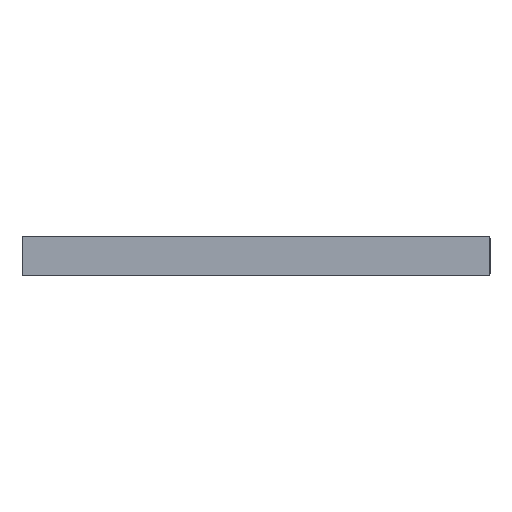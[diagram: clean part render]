
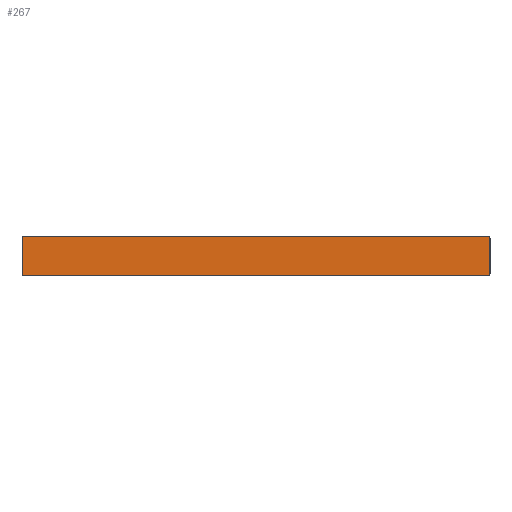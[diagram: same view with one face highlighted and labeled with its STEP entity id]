
A CAD part, left-side view. The second image highlights one B-rep face of the part: STEP entity #267.
In plain terms, the highlighted planar face has unit normal (-1, 0, 0).
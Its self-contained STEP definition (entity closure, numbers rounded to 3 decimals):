
#7 = EDGE_LOOP ( 'NONE', ( #223, #197, #265, #227, #308, #271, #194, #233 ) ) ;
#9 = CARTESIAN_POINT ( 'NONE',  ( 0., 0.25, 0. ) ) ;
#11 = EDGE_CURVE ( 'NONE', #314, #257, #220, .T. ) ;
#16 = CARTESIAN_POINT ( 'NONE',  ( 0., 0.25, 5. ) ) ;
#18 = DIRECTION ( 'NONE',  ( 1., 0., 0. ) ) ;
#21 = CARTESIAN_POINT ( 'NONE',  ( 0., 59.75, 0.25 ) ) ;
#33 = DIRECTION ( 'NONE',  ( 1., 0., 0. ) ) ;
#39 = DIRECTION ( 'NONE',  ( 0., 0., 1. ) ) ;
#41 = CARTESIAN_POINT ( 'NONE',  ( 0., 0., 0. ) ) ;
#46 = DIRECTION ( 'NONE',  ( 0., 0., 1. ) ) ;
#50 = CARTESIAN_POINT ( 'NONE',  ( 0., 0., 0. ) ) ;
#55 = CARTESIAN_POINT ( 'NONE',  ( 0., 0., 0.25 ) ) ;
#57 = PLANE ( 'NONE',  #90 ) ;
#63 = CARTESIAN_POINT ( 'NONE',  ( 0., 59.75, 5. ) ) ;
#70 = EDGE_CURVE ( 'NONE', #230, #320, #247, .T. ) ;
#72 = DIRECTION ( 'NONE',  ( 0., 0., -1. ) ) ;
#73 = DIRECTION ( 'NONE',  ( 0., 0., 1. ) ) ;
#75 = DIRECTION ( 'NONE',  ( 0., 1., 0. ) ) ;
#80 = AXIS2_PLACEMENT_3D ( 'NONE', #21, #187, #39 ) ;
#89 = AXIS2_PLACEMENT_3D ( 'NONE', #147, #18, #184 ) ;
#90 = AXIS2_PLACEMENT_3D ( 'NONE', #41, #260, #72 ) ;
#98 = CARTESIAN_POINT ( 'NONE',  ( 0., 0., 0. ) ) ;
#105 = AXIS2_PLACEMENT_3D ( 'NONE', #178, #33, #204 ) ;
#114 = EDGE_CURVE ( 'NONE', #300, #246, #170, .T. ) ;
#117 = CIRCLE ( 'NONE', #89, 0.25 ) ;
#122 = AXIS2_PLACEMENT_3D ( 'NONE', #270, #302, #46 ) ;
#128 = FACE_OUTER_BOUND ( 'NONE', #7, .T. ) ;
#141 = VECTOR ( 'NONE', #148, 1000. ) ;
#142 = LINE ( 'NONE', #144, #141 ) ;
#144 = CARTESIAN_POINT ( 'NONE',  ( 0., 60., 5. ) ) ;
#146 = CIRCLE ( 'NONE', #105, 0.25 ) ;
#147 = CARTESIAN_POINT ( 'NONE',  ( 0., 0.25, 0.25 ) ) ;
#148 = DIRECTION ( 'NONE',  ( 0., -1., 0. ) ) ;
#154 = CARTESIAN_POINT ( 'NONE',  ( 0., 60., 0.25 ) ) ;
#158 = CIRCLE ( 'NONE', #122, 0.25 ) ;
#166 = VECTOR ( 'NONE', #75, 1000. ) ;
#170 = LINE ( 'NONE', #98, #166 ) ;
#173 = CARTESIAN_POINT ( 'NONE',  ( 0., 60., 4.75 ) ) ;
#175 = EDGE_CURVE ( 'NONE', #262, #230, #158, .T. ) ;
#176 = EDGE_CURVE ( 'NONE', #263, #262, #142, .T. ) ;
#178 = CARTESIAN_POINT ( 'NONE',  ( 0., 59.75, 4.75 ) ) ;
#179 = CARTESIAN_POINT ( 'NONE',  ( 0., 0., 4.75 ) ) ;
#184 = DIRECTION ( 'NONE',  ( 0., 0., 1. ) ) ;
#187 = DIRECTION ( 'NONE',  ( 1., 0., 0. ) ) ;
#193 = CIRCLE ( 'NONE', #80, 0.25 ) ;
#194 = ORIENTED_EDGE ( 'NONE', *, *, #206, .F. ) ;
#197 = ORIENTED_EDGE ( 'NONE', *, *, #114, .F. ) ;
#203 = VECTOR ( 'NONE', #307, 1000. ) ;
#204 = DIRECTION ( 'NONE',  ( 0., 0., 1. ) ) ;
#206 = EDGE_CURVE ( 'NONE', #257, #263, #146, .T. ) ;
#219 = VECTOR ( 'NONE', #73, 1000. ) ;
#220 = LINE ( 'NONE', #328, #219 ) ;
#223 = ORIENTED_EDGE ( 'NONE', *, *, #335, .F. ) ;
#227 = ORIENTED_EDGE ( 'NONE', *, *, #70, .F. ) ;
#230 = VERTEX_POINT ( 'NONE', #179 ) ;
#233 = ORIENTED_EDGE ( 'NONE', *, *, #11, .F. ) ;
#241 = CARTESIAN_POINT ( 'NONE',  ( 0., 59.75, 0. ) ) ;
#246 = VERTEX_POINT ( 'NONE', #241 ) ;
#247 = LINE ( 'NONE', #50, #203 ) ;
#257 = VERTEX_POINT ( 'NONE', #173 ) ;
#260 = DIRECTION ( 'NONE',  ( 1., 0., 0. ) ) ;
#262 = VERTEX_POINT ( 'NONE', #16 ) ;
#263 = VERTEX_POINT ( 'NONE', #63 ) ;
#265 = ORIENTED_EDGE ( 'NONE', *, *, #319, .F. ) ;
#267 = ADVANCED_FACE ( 'NONE', ( #128 ), #57, .F. ) ;
#270 = CARTESIAN_POINT ( 'NONE',  ( 0., 0.25, 4.75 ) ) ;
#271 = ORIENTED_EDGE ( 'NONE', *, *, #176, .F. ) ;
#300 = VERTEX_POINT ( 'NONE', #9 ) ;
#302 = DIRECTION ( 'NONE',  ( 1., 0., 0. ) ) ;
#307 = DIRECTION ( 'NONE',  ( 0., 0., -1. ) ) ;
#308 = ORIENTED_EDGE ( 'NONE', *, *, #175, .F. ) ;
#314 = VERTEX_POINT ( 'NONE', #154 ) ;
#319 = EDGE_CURVE ( 'NONE', #320, #300, #117, .T. ) ;
#320 = VERTEX_POINT ( 'NONE', #55 ) ;
#328 = CARTESIAN_POINT ( 'NONE',  ( 0., 60., 0. ) ) ;
#335 = EDGE_CURVE ( 'NONE', #246, #314, #193, .T. ) ;
